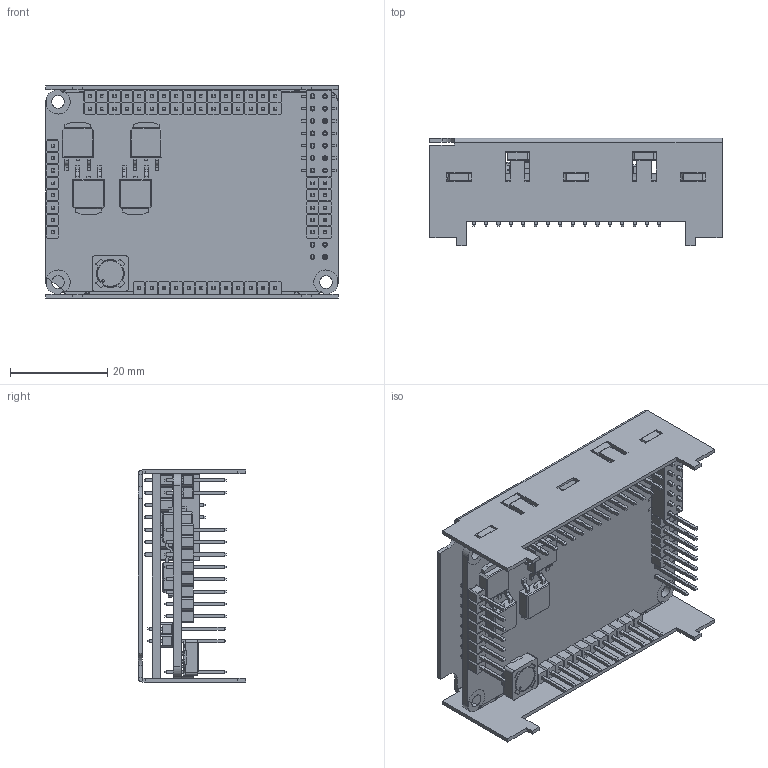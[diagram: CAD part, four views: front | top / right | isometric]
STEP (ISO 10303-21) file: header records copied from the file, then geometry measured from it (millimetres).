
FILE_DESCRIPTION (( 'STEP AP214' ), '1' );
FILE_NAME ('P027.314.E111 – iPOS4808 MY-CAN-STO.STEP', '2015-12-02T14:52:01', ( 'a_neacsu' ), ( '' ), 'SwSTEP 2.0', 'SolidWorks 2013', '' );
FILE_SCHEMA (( 'AUTOMOTIVE_DESIGN' ));
Length unit declared in the file: millimetre
Products named in the file (1): P027.314.E111 – iPOS4808 MY-CAN-STO
Bounding box: 60 x 22 x 43.6 mm (x, y, z)
Volume: 9175.6 mm3; surface area: 25715.1 mm2
Topology: 39 solids, 44 shells, 4053 faces, 10152 edges, 6348 vertices
Faces by surface type: plane 3525, cylinder 452, bspline 56, sphere 16, cone 4
Entity records: 164220 total; most frequent: CARTESIAN_POINT 22406, ORIENTED_EDGE 20256, DIRECTION 18864, EDGE_CURVE 10128, LINE 9076, VECTOR 9076, VERTEX_POINT 6356, AXIS2_PLACEMENT_3D 4894
